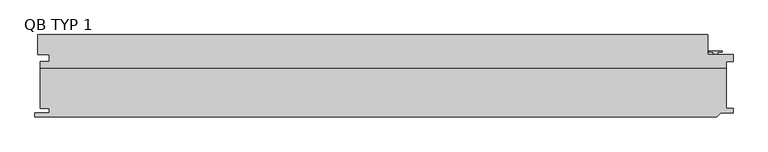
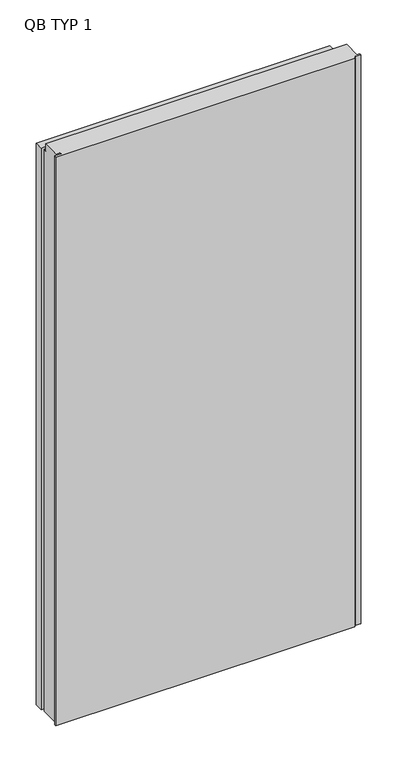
"""IFC4 building model written with IfcOpenShell, lengths in millimetres: plate geometry, TR_C_V_QBISS_Panel : QB TYP 1."""

import ifcopenshell
import ifcopenshell.guid

model = None  # the IFC model being written
_history = None  # IfcOwnerHistory: only IFC2X3 demands one
_inside = {}  # id of a spatial element -> (the spatial element, [elements in it])
_under = {}  # id of a project, library or spatial element -> (it, [spatial elements below it])
_declared = {}  # id of a project -> (the project, [libraries it declares])
_typed = {}  # id of a type object -> (the type object, [elements of that type])
_made_of = {}  # id of a material, layer set ... -> (it, [elements and type objects made of it])


def new_model(schema):
    """Start an empty IFC model of exactly this schema.

    Asked for "IFC4X3", IfcOpenShell would pick the latest addendum, in which some entities
    have other attributes; the version numbers below select the first issue.
    IFC2X3 requires an IfcOwnerHistory on every rooted entity: one is made here for all.
    """
    global model, _history
    if schema == "IFC4X3":
        model = ifcopenshell.file(schema_version=(4, 3, 0, 0))
    else:
        model = ifcopenshell.file(schema=schema)
    _inside.clear()
    _under.clear()
    _declared.clear()
    _typed.clear()
    _made_of.clear()
    _history = None
    if model.schema == "IFC2X3":
        org = make("IfcOrganization", Name="unknown")
        user = make(
            "IfcPersonAndOrganization",
            ThePerson=make("IfcPerson", FamilyName="unknown"),
            TheOrganization=org,
        )
        app = make(
            "IfcApplication",
            ApplicationDeveloper=org,
            Version="unknown",
            ApplicationFullName="unknown",
            ApplicationIdentifier="unknown",
        )
        _history = make(
            "IfcOwnerHistory",
            OwningUser=user,
            OwningApplication=app,
            ChangeAction="ADDED",
            CreationDate=0,
        )
    return model


def make(cls, **values):
    """One entity of the class cls with the attributes given. An attribute that is None is left unset."""
    return model.create_entity(
        cls, **{name: value for name, value in values.items() if value is not None}
    )


def rooted(cls, **values):
    """An entity with a GlobalId (a new one), such as an element, a storey or a relation."""
    return make(cls, GlobalId=ifcopenshell.guid.new(), OwnerHistory=_history, **values)


def si_unit(unit_type, name, prefix=None):
    """IfcSIUnit, for example si_unit("LENGTHUNIT", "METRE", prefix="MILLI")."""
    return make("IfcSIUnit", UnitType=unit_type, Prefix=prefix, Name=name)


def assignment(units):
    """IfcUnitAssignment: the units of a project."""
    return None if units is None else make("IfcUnitAssignment", Units=units)


def point(xyz):
    """IfcCartesianPoint."""
    return None if xyz is None else make("IfcCartesianPoint", Coordinates=xyz)


def direction(xyz):
    """IfcDirection."""
    return None if xyz is None else make("IfcDirection", DirectionRatios=xyz)


def frame(location, z_axis=None, x_axis=None):
    """IfcAxis2Placement3D, a coordinate frame: its origin and axes. An axis left out is left unset."""
    return make(
        "IfcAxis2Placement3D",
        Location=point(location),
        Axis=direction(z_axis),
        RefDirection=direction(x_axis),
    )


def origin():
    """The frame at (0, 0, 0) with its axes left unset."""
    return frame((0.0, 0.0, 0.0))


def place(relative_to, where):
    """IfcLocalPlacement: puts the frame where relative to a parent placement (None: the world)."""
    return make(
        "IfcLocalPlacement", PlacementRelTo=relative_to, RelativePlacement=where
    )


def context(
    kind, dimensions, precision=None, world=None, true_north=None, identifier=None
):
    """IfcGeometricRepresentationContext, for example the 3D "Model" context."""
    return make(
        "IfcGeometricRepresentationContext",
        ContextIdentifier=identifier,
        ContextType=kind,
        CoordinateSpaceDimension=dimensions,
        Precision=precision,
        WorldCoordinateSystem=world,
        TrueNorth=true_north,
    )


def project(units=None, contexts=None):
    """IfcProject with its units and contexts."""
    return rooted(
        "IfcProject",
        Name="project",
        RepresentationContexts=contexts,
        UnitsInContext=assignment(units),
    )


def spatial(cls, under=None, at=None, **own):
    """A site, building, storey or space (cls), placed at a placement, below another one or the project."""
    s = rooted(cls, ObjectPlacement=at, **own)
    if under is not None:
        _under.setdefault(under.id(), (under, []))[1].append(s)
    return s


def polyline(points):
    """IfcPolyline through the points."""
    return make("IfcPolyline", Points=[point(p) for p in points])


def outline(outer, holes=None, kind="AREA"):
    """IfcArbitraryClosedProfileDef: a profile drawn as a closed curve; with holes, ...WithVoids."""
    if holes is None:
        return make("IfcArbitraryClosedProfileDef", ProfileType=kind, OuterCurve=outer)
    return make(
        "IfcArbitraryProfileDefWithVoids",
        ProfileType=kind,
        OuterCurve=outer,
        InnerCurves=holes,
    )


def extrude(swept, where, along, depth):
    """IfcExtrudedAreaSolid: the profile swept, set in the frame where, extruded along a direction by depth."""
    return make(
        "IfcExtrudedAreaSolid",
        SweptArea=swept,
        Position=where,
        ExtrudedDirection=direction(along),
        Depth=depth,
    )


def faces_of(points, faces, orient=None, outer=None):
    """IfcFace entities. A face is a list of loops; a loop is a list of indices into points, from 0.

    orient and outer hold one flag for each loop. By default every Orientation is true, the
    first loop of a face is its IfcFaceOuterBound and the others are IfcFaceBound.
    """
    made = []
    for i, loops in enumerate(faces):
        bounds = []
        for j, loop in enumerate(loops):
            is_outer = j == 0 if outer is None else outer[i][j]
            bounds.append(
                make(
                    "IfcFaceOuterBound" if is_outer else "IfcFaceBound",
                    Bound=make("IfcPolyLoop", Polygon=[points[k] for k in loop]),
                    Orientation=True if orient is None else orient[i][j],
                )
            )
        made.append(make("IfcFace", Bounds=bounds))
    return made


def faceted_brep(points, faces, orient=None, outer=None, voids=None):
    """IfcFacetedBrep: a solid bounded by flat faces; with voids (closed shells), ...WithVoids."""
    shared = [point(p) for p in points]
    hull = make("IfcClosedShell", CfsFaces=faces_of(shared, faces, orient, outer))
    if voids is None:
        return make("IfcFacetedBrep", Outer=hull)
    return make(
        "IfcFacetedBrepWithVoids",
        Outer=hull,
        Voids=[
            make(cls, CfsFaces=faces_of(shared, fs, o, b)) for cls, fs, o, b in voids
        ],
    )


def shape(context_of_items, identifier, shape_type, items):
    """IfcShapeRepresentation: the items that make up one representation, for example the "Body"."""
    return make(
        "IfcShapeRepresentation",
        ContextOfItems=context_of_items,
        RepresentationIdentifier=identifier,
        RepresentationType=shape_type,
        Items=items,
    )


def source(mapping_origin, context_of_items, identifier, shape_type, items):
    """IfcRepresentationMap: a shape defined once, which mapped items show again and again."""
    return make(
        "IfcRepresentationMap",
        MappingOrigin=mapping_origin,
        MappedRepresentation=shape(context_of_items, identifier, shape_type, items),
    )


def transform(
    local_origin,
    x_axis=None,
    y_axis=None,
    z_axis=None,
    scale=None,
    scale2=None,
    scale3=None,
    uniform=True,
):
    """IfcCartesianTransformationOperator3D, or its non-uniform kind. x_axis, y_axis, z_axis: its Axis1, 2, 3."""
    if uniform:
        return make(
            "IfcCartesianTransformationOperator3D",
            Axis1=direction(x_axis),
            Axis2=direction(y_axis),
            LocalOrigin=point(local_origin),
            Scale=scale,
            Axis3=direction(z_axis),
        )
    return make(
        "IfcCartesianTransformationOperator3DnonUniform",
        Axis1=direction(x_axis),
        Axis2=direction(y_axis),
        LocalOrigin=point(local_origin),
        Scale=scale,
        Axis3=direction(z_axis),
        Scale2=scale2,
        Scale3=scale3,
    )


def mapped(mapping_source, mapping_target):
    """IfcMappedItem: shows the shape of a source again, moved by a transform."""
    return make(
        "IfcMappedItem", MappingSource=mapping_source, MappingTarget=mapping_target
    )


def made_of(thing, what):
    """Note that an element or type object is made of a material, layer set ...; save() writes the relation."""
    if what is not None:
        _made_of.setdefault(what.id(), (what, []))[1].append(thing)
    return thing


def element(
    cls,
    number,
    at=None,
    inside=None,
    cuts=None,
    type_object=None,
    material=None,
    context=None,
    identifier="Body",
    shape_type=None,
    held_by="IfcProductDefinitionShape",
    body=None,
    shapes=None,
    **own,
):
    """One element of the class cls, such as IfcWall. Its Tag is "e" and its number.

    at: its placement. inside: the storey or other place that contains it. cuts: it is an
    opening in that element (IfcRelVoidsElement). A single representation is given by context,
    identifier, shape_type and body (its items); several are given by shapes. held_by: the class
    of the entity that holds the representations. save() writes the other relations.
    """
    e = rooted(cls, Tag="e%d" % number, ObjectPlacement=at, **own)
    if body is not None:
        shapes = [shape(context, identifier, shape_type, body)]
    if shapes is not None:
        e.Representation = make(held_by, Representations=shapes)
    if inside is not None:
        _inside.setdefault(inside.id(), (inside, []))[1].append(e)
    if cuts is not None:
        rooted(
            "IfcRelVoidsElement", RelatingBuildingElement=cuts, RelatedOpeningElement=e
        )
    if type_object is not None:
        _typed.setdefault(type_object.id(), (type_object, []))[1].append(e)
    return made_of(e, material)


def aggregate(whole, parts):
    """IfcRelAggregates: a whole, such as a stair, and the parts it consists of."""
    return rooted("IfcRelAggregates", RelatingObject=whole, RelatedObjects=parts)


def save(model, path):
    """Write the relations noted so far, then the file.

    IfcRelAggregates (storeys below a building ...), IfcRelContainedInSpatialStructure (elements
    in a storey), IfcRelDefinesByType, IfcRelAssociatesMaterial and IfcRelDeclares: one each for
    every whole, place, type object, material and project.
    """
    for whole, parts in _under.values():
        aggregate(whole, parts)
    for where, things in _inside.values():
        rooted(
            "IfcRelContainedInSpatialStructure",
            RelatedElements=things,
            RelatingStructure=where,
        )
    for kind, things in _typed.values():
        rooted("IfcRelDefinesByType", RelatedObjects=things, RelatingType=kind)
    for what, things in _made_of.values():
        rooted("IfcRelAssociatesMaterial", RelatedObjects=things, RelatingMaterial=what)
    for by, libraries in _declared.values():
        rooted("IfcRelDeclares", RelatingContext=by, RelatedDefinitions=libraries)
    model.write(path)


def qb_typ_1_f948df83(model_context):
    return source(origin(), model_context, "Body", "SolidModel", [
        faceted_brep([(-500.0, -108.0, 2012.4), (-487.0, -108.0, 2012.4), (-487.0, -114.0, 2012.4), (-508.0, -114.0, 2012.4), (-508.0, -120.0, 2012.4), (486.0, -120.0, 2012.4), (492.0, -114.0, 2012.4), (510.0, -114.0, 2012.4), (510.0, -108.0, 2012.4), (500.0, -108.0, 2012.4), (500.0, -49.0, 2012.4), (-500.0, -49.0, 2012.4), (500.0, -108.0, 12.5), (510.0, -108.0, 12.5), (510.0, -114.0, 12.5), (492.0, -114.0, 12.5), (486.0, -120.0, 12.5), (-508.0, -120.0, 12.5), (-508.0, -114.0, 12.5), (-487.0, -114.0, 12.5), (-487.0, -108.0, 12.5), (-500.0, -108.0, 12.5), (-500.0, -49.0, 12.5), (500.0, -49.0, 12.5), (-500.0, -49.0, 12.7), (500.0, -49.0, 12.7), (-500.0, -39.0, 12.7), (-487.0, -39.0, 12.7), (-487.0, -29.0, 12.7), (-504.0, -29.0, 12.7), (-504.0, 0.0, 12.7), (473.0, 0.0, 12.7), (473.0, -29.0, 12.7), (510.0, -29.0, 12.7), (510.0, -39.0, 12.7), (500.0, -39.0, 12.7), (500.0, -39.0, 1987.3), (500.0, -49.0, 1987.3), (510.0, -39.0, 1987.3), (510.0, -29.0, 1987.3), (473.0, -29.0, 1987.3), (473.0, 0.0, 1987.3), (-504.0, 0.0, 1987.3), (-504.0, -29.0, 1987.3), (-487.0, -29.0, 1987.3), (-487.0, -39.0, 1987.3), (-500.0, -39.0, 1987.3), (-500.0, -49.0, 1987.3)], [[[0, 1, 2, 3, 4, 5, 6, 7, 8, 9, 10, 11]], [[12, 13, 14, 15, 16, 17, 18, 19, 20, 21, 22, 23]], [[24, 25, 23, 22]], [[25, 24, 26, 27, 28, 29, 30, 31, 32, 33, 34, 35]], [[1, 0, 21, 20]], [[2, 1, 20, 19]], [[3, 2, 19, 18]], [[4, 3, 18, 17]], [[5, 4, 17, 16]], [[6, 5, 16, 15]], [[7, 6, 15, 14]], [[8, 7, 14, 13]], [[9, 8, 13, 12]], [[9, 12, 23, 25, 35, 36, 37, 10]], [[35, 34, 38, 36]], [[34, 33, 39, 38]], [[33, 32, 40, 39]], [[32, 31, 41, 40]], [[31, 30, 42, 41]], [[30, 29, 43, 42]], [[29, 28, 44, 43]], [[28, 27, 45, 44]], [[27, 26, 46, 45]], [[21, 0, 11, 47, 46, 26, 24, 22]], [[37, 47, 11, 10]], [[47, 37, 36, 38, 39, 40, 41, 42, 43, 44, 45, 46]]]),
        extrude(outline(polyline([(494.5, -24.0), (494.5, -25.4998317), (487.7023593, -25.4998317), (487.7023593, -27.9998293), (488.5023593, -27.9998293), (488.5023593, -28.7998428), (480.5023028, -28.7998428), (480.5023028, -27.9998293), (481.3023028, -27.9998293), (481.3023028, -25.4998317), (474.5, -25.4998317), (474.5, -24.0), (494.5, -24.0)])), frame((0.0, 0.0, 12.5), z_axis=(0.0, 0.0, 1.0), x_axis=(1.0, 0.0, 0.0)), (0.0, 0.0, 1.0), 1975.0),
        extrude(outline(polyline([(-48.2, -11.7), (-44.0, -11.7), (-44.0, -12.5), (-49.0, -12.5), (-49.0, 12.7), (-48.2, 12.7), (-48.2, -11.7)])), frame((-446.0, 0.0, 0.0), z_axis=(1.0, 0.0, 0.0), x_axis=(0.0, 1.0, 0.0)), (0.0, 0.0, 1.0), 862.0),
    ])


if __name__ == "__main__":
    model = new_model("IFC4")
    model_context = context("Model", 3, world=origin())
    ifc_project = project(units=[si_unit("LENGTHUNIT", "METRE", prefix="MILLI")], contexts=[model_context])
    site = spatial("IfcSite", under=ifc_project)
    building = spatial("IfcBuilding", under=site)
    placement = place(None, origin())
    qb_typ_1_shape = qb_typ_1_f948df83(model_context)
    element("IfcPlate", 1, ObjectType="TR_C_V_QBISS_Panel : QB TYP 1", at=placement, inside=building, context=model_context, shape_type="MappedRepresentation", body=[
        mapped(qb_typ_1_shape, transform((0.0, 0.0, 0.0), x_axis=(1.0, 0.0, 0.0), y_axis=(0.0, 1.0, 0.0), z_axis=(0.0, 0.0, 1.0))),
    ])
    save(model, "model.ifc")
